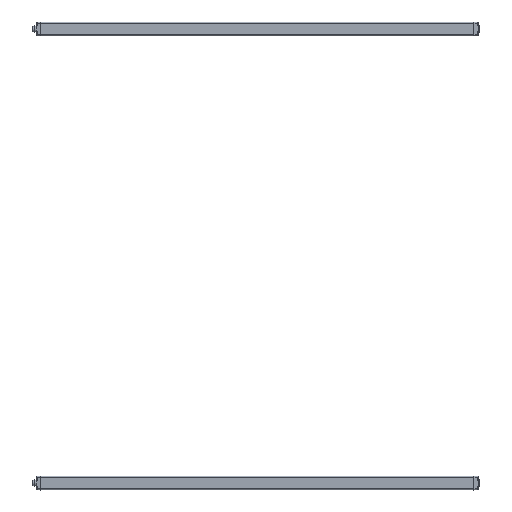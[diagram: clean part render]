
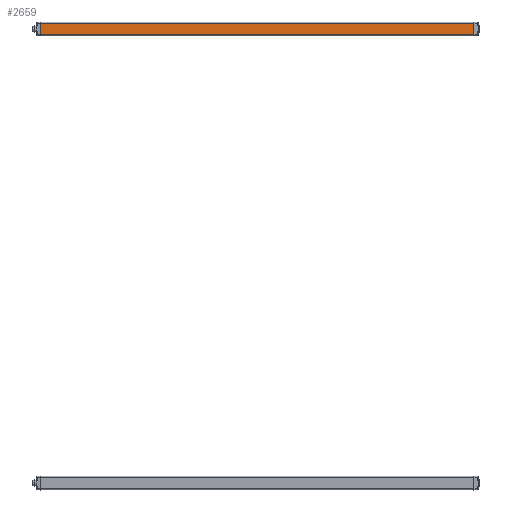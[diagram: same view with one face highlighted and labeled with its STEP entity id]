
A CAD part, front view. The second image highlights one B-rep face of the part: STEP entity #2659.
In plain terms, the highlighted planar face has unit normal (0, -1, 0).
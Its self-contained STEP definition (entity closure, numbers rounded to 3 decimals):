
#154=DIRECTION('',(0.,0.,-1.));
#155=VECTOR('',#154,24.);
#156=CARTESIAN_POINT('',(0.,-15.15,12.));
#157=LINE('',#156,#155);
#412=DIRECTION('',(0.,0.,-1.));
#413=VECTOR('',#412,24.);
#414=CARTESIAN_POINT('',(980.,-15.15,12.));
#415=LINE('',#414,#413);
#880=DIRECTION('',(1.,0.,0.));
#881=VECTOR('',#880,980.);
#882=CARTESIAN_POINT('',(0.,-15.15,12.));
#883=LINE('',#882,#881);
#884=DIRECTION('',(1.,0.,0.));
#885=VECTOR('',#884,980.);
#886=CARTESIAN_POINT('',(0.,-15.15,-12.));
#887=LINE('',#886,#885);
#1298=CARTESIAN_POINT('',(0.,-15.15,12.));
#1299=CARTESIAN_POINT('',(980.,-15.15,12.));
#1300=VERTEX_POINT('',#1298);
#1301=VERTEX_POINT('',#1299);
#1310=CARTESIAN_POINT('',(0.,-15.15,-12.));
#1311=CARTESIAN_POINT('',(980.,-15.15,-12.));
#1312=VERTEX_POINT('',#1310);
#1313=VERTEX_POINT('',#1311);
#2646=CARTESIAN_POINT('',(0.,-15.15,15.65));
#2647=DIRECTION('',(0.,-1.,0.));
#2648=DIRECTION('',(0.,0.,-1.));
#2649=AXIS2_PLACEMENT_3D('',#2646,#2647,#2648);
#2650=PLANE('',#2649);
#2652=ORIENTED_EDGE('',*,*,#2651,.T.);
#2653=ORIENTED_EDGE('',*,*,#1938,.T.);
#2655=ORIENTED_EDGE('',*,*,#2654,.F.);
#2656=ORIENTED_EDGE('',*,*,#1671,.F.);
#2657=EDGE_LOOP('',(#2652,#2653,#2655,#2656));
#2658=FACE_OUTER_BOUND('',#2657,.F.);
#2659=ADVANCED_FACE('',(#2658),#2650,.T.);
#1671=EDGE_CURVE('',#1300,#1312,#157,.T.);
#1938=EDGE_CURVE('',#1301,#1313,#415,.T.);
#2651=EDGE_CURVE('',#1300,#1301,#883,.T.);
#2654=EDGE_CURVE('',#1312,#1313,#887,.T.);
